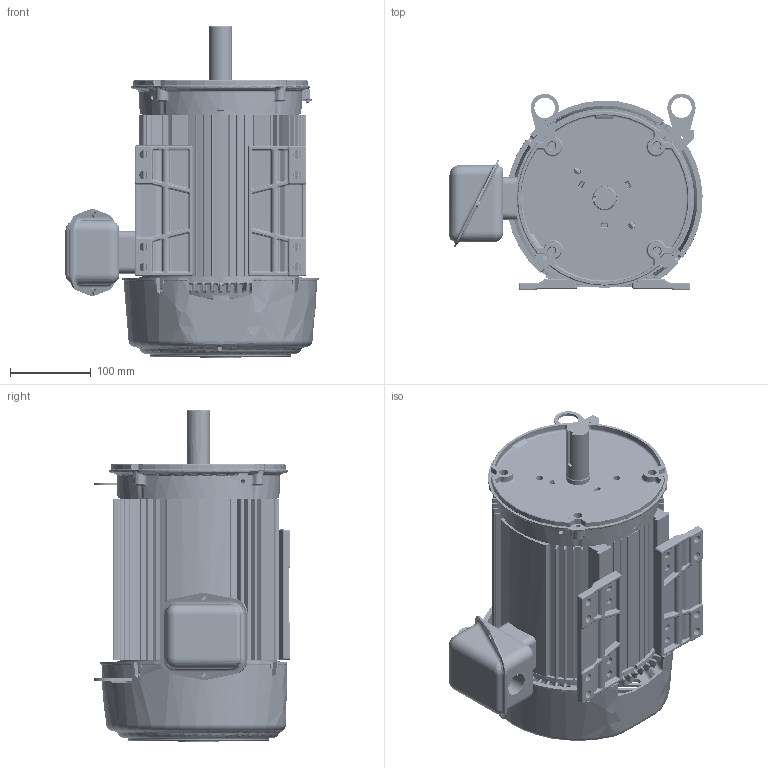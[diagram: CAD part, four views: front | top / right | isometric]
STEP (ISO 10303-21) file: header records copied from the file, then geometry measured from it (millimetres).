
FILE_DESCRIPTION((''),'2;1');
FILE_NAME('STD_CFACE_ASM','2013-04-30T',('emd2341'),('Nidec Motor Corporation'),'PRO/ENGINEER BY PARAMETRIC TECHNOLOGY CORPORATION, 2010140','PRO/ENGINEER BY PARAMETRIC TECHNOLOGY CORPORATION, 2010140','');
FILE_SCHEMA(('CONFIG_CONTROL_DESIGN'));
Length unit declared in the file: inch
Products named in the file (17): 0390926_AF0; 0374476; 0382071-BKT_AF0; 0298010_AF0; 0384147_ASM; 0380766-BKT_AF0; 0361252_AF0; 0380767_ASM; 0361265; 0541983; 0027197; 0361286; 0362988; 0390920; 0390928; 0390417; STD_CFACE_ASM
Assembly tree (18 placements, depth 3):
  STD_CFACE_ASM
    0390926_AF0
    0374476  x2
    0384147_ASM
      0382071-BKT_AF0
      0298010_AF0
    0380767_ASM
      0380766-BKT_AF0
      0361252_AF0
    0361265
    0541983
    0027197
    0361286
    0362988  x2
    0390920
    0390928
    0390417
Bounding box: 313.46 x 243.34 x 411.08 mm (x, y, z)
Volume: 2244700.9 mm3; surface area: 1088785.7 mm2
Topology: 18 solids, 18 shells, 5971 faces, 14252 edges, 8283 vertices
Faces by surface type: bspline 2550, cylinder 1322, plane 1042, torus 480, cone 322, sphere 255
Entity records: 300375 total; most frequent: CARTESIAN_POINT 187356, ORIENTED_EDGE 26912, DIRECTION 19383, EDGE_CURVE 13456, AXIS2_PLACEMENT_3D 8225, VERTEX_POINT 7849, EDGE_LOOP 5801, FACE_OUTER_BOUND 5629
